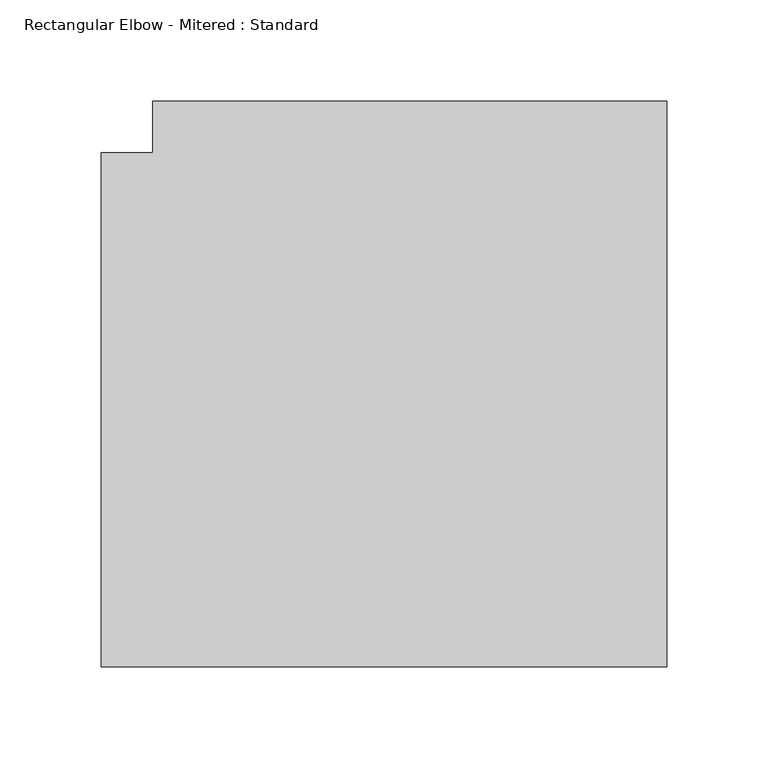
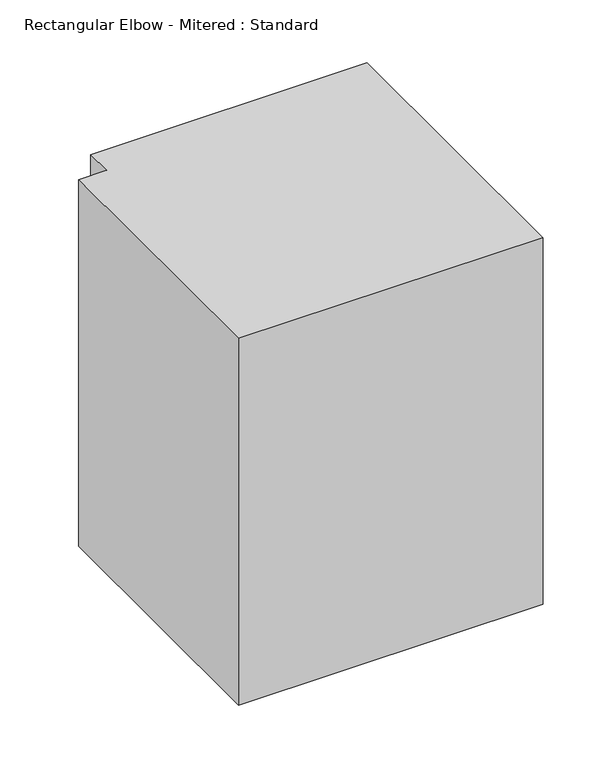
"""IFC4 building model written with IfcOpenShell, lengths in millimetres: duct fitting geometry, Rectangular Elbow - Mitered : Standard."""

from ifc_helpers import new_model, si_unit, frame, origin, place, context, project, spatial, polyline, outline, extrude, source, transform, mapped, element, save


def rectangular_elbow_mitered_standard_7281579c(model_context):
    return source(origin(), model_context, "Body", "SweptSolid", [
        extrude(outline(polyline([(-152.4, -127.0), (-152.4, 127.0), (-127.0, 127.0), (-127.0, 152.4), (127.0, 152.4), (127.0, -127.0), (-152.4, -127.0)])), frame((0.0, 0.0, -177.8), z_axis=(0.0, 0.0, 1.0), x_axis=(1.0, 0.0, 0.0)), (0.0, 0.0, 1.0), 355.6),
    ])


if __name__ == "__main__":
    model = new_model("IFC4")
    model_context = context("Model", 3, world=origin())
    ifc_project = project(units=[si_unit("LENGTHUNIT", "METRE", prefix="MILLI")], contexts=[model_context])
    site = spatial("IfcSite", under=ifc_project)
    building = spatial("IfcBuilding", under=site)
    placement = place(None, origin())
    rectangular_elbow_mitered_standard_shape = rectangular_elbow_mitered_standard_7281579c(model_context)
    element("IfcDuctFitting", 1, ObjectType="Rectangular Elbow - Mitered : Standard", at=placement, inside=building, context=model_context, shape_type="MappedRepresentation", body=[
        mapped(rectangular_elbow_mitered_standard_shape, transform((0.0, 0.0, 0.0), x_axis=(1.0, 0.0, 0.0), y_axis=(0.0, 1.0, 0.0), z_axis=(0.0, 0.0, 1.0))),
    ])
    save(model, "model.ifc")
